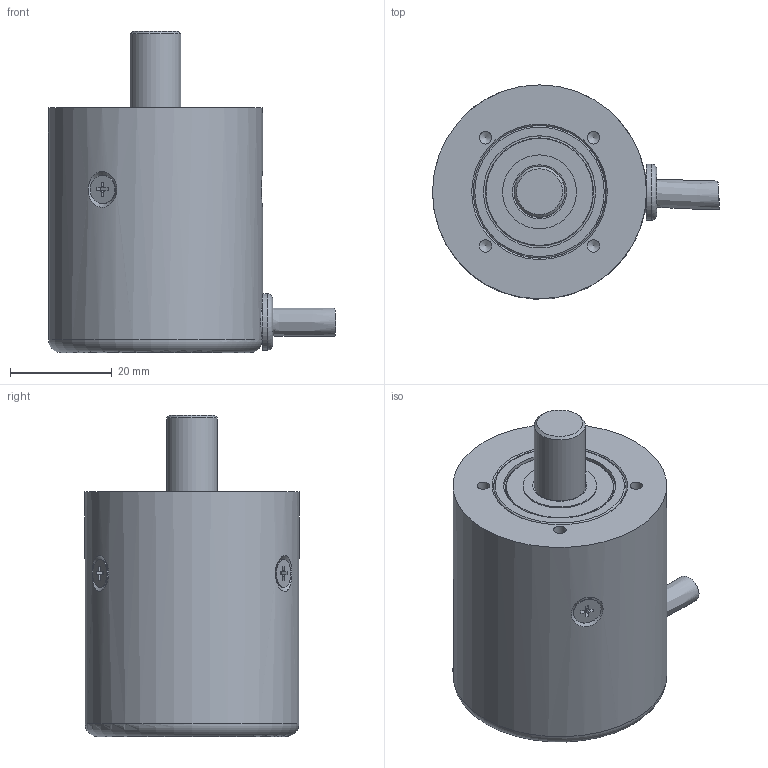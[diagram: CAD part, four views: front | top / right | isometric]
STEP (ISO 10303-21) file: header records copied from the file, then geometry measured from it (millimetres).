
FILE_DESCRIPTION( ( 'Unknown' ), '1' );
FILE_NAME( 'X:/I - Italia/UT - Ufficio Tecnico/Documenti Tecnico/Schede prodotti/InDesign/Assiemi SolidEdge per cataloghi/STEP ASSIEMI/EPA.stp', 'Unknown', ( 'Unknown' ), ( 'Unknown' ), 'PSStep 15.0.49', 'Unknown', ' ' );
FILE_SCHEMA( ( 'AUTOMOTIVE_DESIGN { 1 0 10303 214 1 1 1 1 }' ) );
Length unit declared in the file: millimetre
Products named in the file (11): 41320074
Bounding box: 56.32 x 42 x 63 mm (x, y, z)
Volume: 35396.1 mm3; surface area: 23606.9 mm2
Topology: 11 solids, 15 shells, 164 faces, 395 edges, 258 vertices
Faces by surface type: plane 74, cylinder 45, cone 19, torus 12, sphere 10, bspline 4
Full cylindrical faces by diameter (mm): 2.459 x7, 5.6 x3, 8.666 x1, 9.3 x1, 10 x2, 11 x1, 14.5 x2, 21.2 x2, 21.998 x2, 22 x1, 36 x1, 38.8 x2, 39 x1, 42 x1
Entity records: 7117 total; most frequent: CARTESIAN_POINT 2386, DIRECTION 690, ORIENTED_EDGE 552, EDGE_CURVE 276, AXIS2_PLACEMENT_3D 275, VERTEX_POINT 236, EDGE_LOOP 235, FACE_OUTER_BOUND 191
